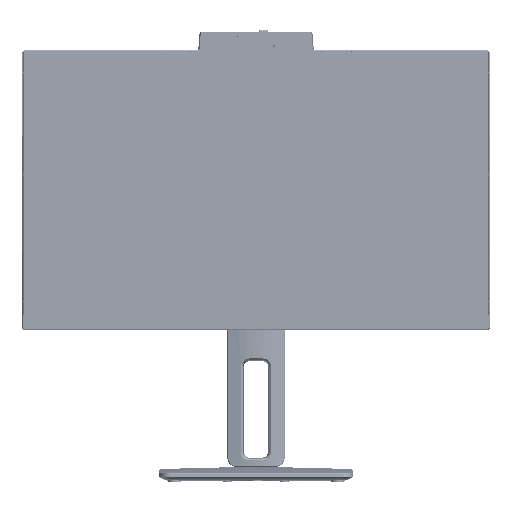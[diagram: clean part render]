
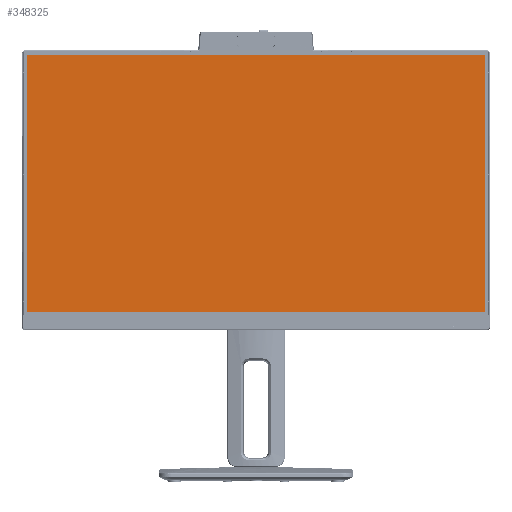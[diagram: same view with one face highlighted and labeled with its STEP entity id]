
A CAD part, top view. The second image highlights one B-rep face of the part: STEP entity #348325.
In plain terms, the highlighted planar face has unit normal (0, 0, 1).
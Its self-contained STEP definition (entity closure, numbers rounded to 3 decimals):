
#347289=DIRECTION('',(-1.,0.,0.));
#347290=VECTOR('',#347289,527.04);
#347291=CARTESIAN_POINT('',(263.52,148.23,-0.2));
#347292=LINE('',#347291,#347290);
#347297=DIRECTION('',(0.,1.,0.));
#347298=VECTOR('',#347297,296.46);
#347299=CARTESIAN_POINT('',(263.52,-148.23,-0.2));
#347300=LINE('',#347299,#347298);
#347305=DIRECTION('',(1.,0.,0.));
#347306=VECTOR('',#347305,527.04);
#347307=CARTESIAN_POINT('',(-263.52,-148.23,-0.2));
#347308=LINE('',#347307,#347306);
#347313=DIRECTION('',(0.,-1.,0.));
#347314=VECTOR('',#347313,296.46);
#347315=CARTESIAN_POINT('',(-263.52,148.23,-0.2));
#347316=LINE('',#347315,#347314);
#347407=CARTESIAN_POINT('',(263.52,148.23,-0.2));
#347408=VERTEX_POINT('',#347407);
#347409=CARTESIAN_POINT('',(-263.52,148.23,-0.2));
#347410=VERTEX_POINT('',#347409);
#347411=CARTESIAN_POINT('',(263.52,-148.23,-0.2));
#347412=VERTEX_POINT('',#347411);
#347413=CARTESIAN_POINT('',(-263.52,-148.23,-0.2));
#347414=VERTEX_POINT('',#347413);
#348314=CARTESIAN_POINT('',(0.,0.,-0.2));
#348315=DIRECTION('',(0.,0.,1.));
#348316=DIRECTION('',(1.,0.,0.));
#348317=AXIS2_PLACEMENT_3D('',#348314,#348315,#348316);
#348318=PLANE('',#348317);
#348319=ORIENTED_EDGE('',*,*,#348218,.F.);
#348320=ORIENTED_EDGE('',*,*,#348245,.F.);
#348321=ORIENTED_EDGE('',*,*,#348271,.F.);
#348322=ORIENTED_EDGE('',*,*,#348296,.F.);
#348323=EDGE_LOOP('',(#348319,#348320,#348321,#348322));
#348324=FACE_OUTER_BOUND('',#348323,.F.);
#348325=ADVANCED_FACE('',(#348324),#348318,.T.);
#348218=EDGE_CURVE('',#347408,#347410,#347292,.T.);
#348245=EDGE_CURVE('',#347412,#347408,#347300,.T.);
#348271=EDGE_CURVE('',#347414,#347412,#347308,.T.);
#348296=EDGE_CURVE('',#347410,#347414,#347316,.T.);
